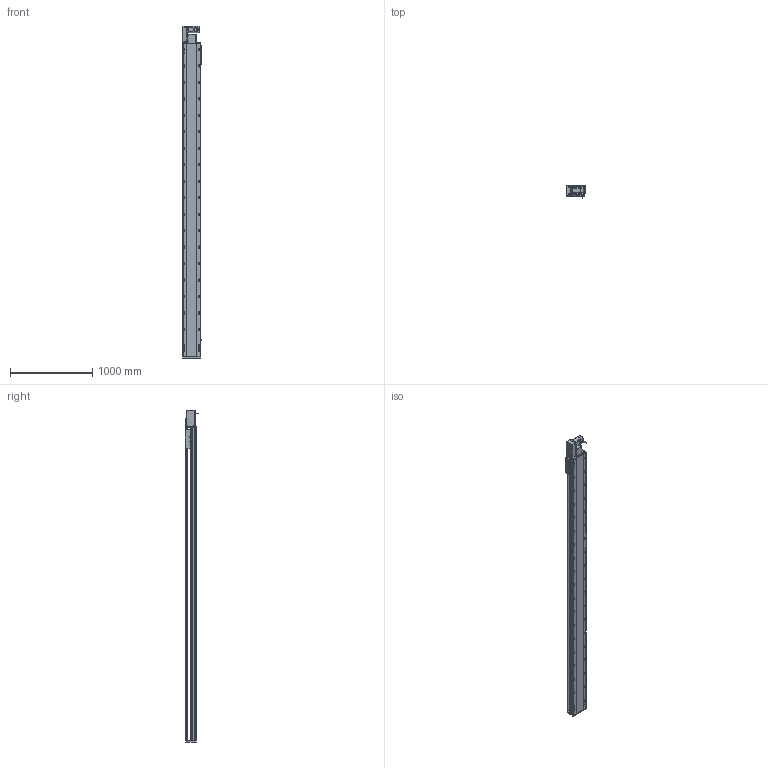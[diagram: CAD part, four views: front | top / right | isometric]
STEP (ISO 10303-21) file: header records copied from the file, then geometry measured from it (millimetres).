
FILE_DESCRIPTION (( 'STEP AP214' ), '1' );
FILE_NAME ('RTB22S-XX-3450-L-M75-C4.STEP', '2025-12-12T03:35:12', ( '' ), ( '' ), 'SwSTEP 2.0', 'SolidWorks 2018', '' );
FILE_SCHEMA (( 'AUTOMOTIVE_DESIGN' ));
Length unit declared in the file: millimetre
Products named in the file (14): RTB22S-GY-001耜裔^RTB22S-XX-XX-L-M75-C4; RTB22S-GY-005P^RTB22S-L-々湍釱蚾饜_RTB22S-XX-XX-L-M75-C4; RTB22S-L-004賑釱^RTB22S-XX-XX-L-M75-C4; RTH22-GY-013外置感应片^RTB22S-XX-XX-L-M75-C4; RTB22S-L-011菁釱^RTB22S-XX-XX-L-M75-C4; 750W萇儂^RTB22S-XX-XX-L-M75-C4; RTB22S-XX-3450-L-M75-C4; RTB22S-GY-018P^RTB22S-L-々湍釱蚾饜_RTB22S-XX-XX-L-M75-C4; RTB22S-GY-017P^RTB22S-L-々湍釱蚾饜_RTB22S-XX-XX-L-M75-C4; RTB22S-GY-014--々湍釱^RTB22S-L-々湍釱蚾饜_RTB22S-XX-XX-L-M75-C4; RTB22S-GY-007奻裔^RTB22S-XX-XX-L-M75-C4; RTB22S-GY-008-M75--萇儂啣^RTB22S-L-々湍釱蚾饜_RTB22S-XX-XX-L-M75-C4; OMRON EE-SX672 传感器^RTB22S-XX-XX-L-M75-C4; RTB22S-L-々湍釱蚾饜^RTB22S-XX-XX-L-M75-C4
Assembly tree (16 placements, depth 3):
  RTB22S-XX-3450-L-M75-C4
    RTB22S-L-011菁釱^RTB22S-XX-XX-L-M75-C4
    750W萇儂^RTB22S-XX-XX-L-M75-C4
    RTB22S-L-004賑釱^RTB22S-XX-XX-L-M75-C4
    OMRON EE-SX672 传感器^RTB22S-XX-XX-L-M75-C4  x3
    RTH22-GY-013外置感应片^RTB22S-XX-XX-L-M75-C4
    RTB22S-GY-007奻裔^RTB22S-XX-XX-L-M75-C4
    RTB22S-GY-001耜裔^RTB22S-XX-XX-L-M75-C4
    RTB22S-L-々湍釱蚾饜^RTB22S-XX-XX-L-M75-C4
      RTB22S-GY-014--々湍釱^RTB22S-L-々湍釱蚾饜_RTB22S-XX-XX-L-M75-C4
      RTB22S-GY-017P^RTB22S-L-々湍釱蚾饜_RTB22S-XX-XX-L-M75-C4  x2
      RTB22S-GY-005P^RTB22S-L-々湍釱蚾饜_RTB22S-XX-XX-L-M75-C4
      RTB22S-GY-008-M75--萇儂啣^RTB22S-L-々湍釱蚾饜_RTB22S-XX-XX-L-M75-C4
      RTB22S-GY-018P^RTB22S-L-々湍釱蚾饜_RTB22S-XX-XX-L-M75-C4
Bounding box: 238.5 x 162.7 x 4029 mm (x, y, z)
Volume: 49827414.6 mm3; surface area: 5071881.3 mm2
Topology: 15 solids, 15 shells, 2199 faces, 5986 edges, 3812 vertices
Faces by surface type: plane 939, cylinder 766, bspline 296, cone 186, sphere 8, torus 4
Entity records: 60664 total; most frequent: CARTESIAN_POINT 16948, ORIENTED_EDGE 8664, DIRECTION 8546, EDGE_CURVE 4332, AXIS2_PLACEMENT_3D 3094, VERTEX_POINT 2816, LINE 2358, VECTOR 2358
